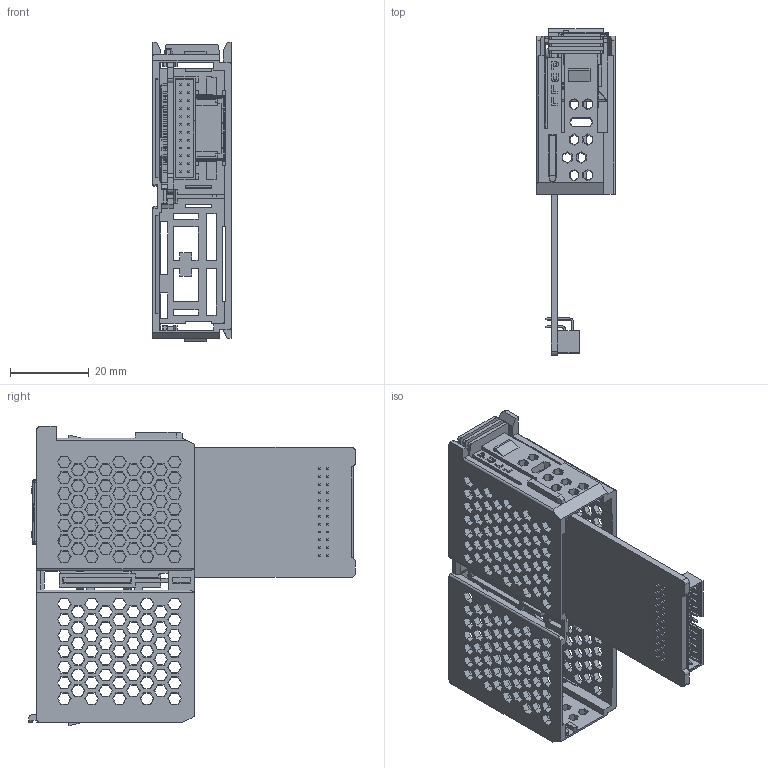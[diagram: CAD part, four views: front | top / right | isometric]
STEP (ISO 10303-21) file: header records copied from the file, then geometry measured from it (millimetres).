
FILE_DESCRIPTION((''),'2;1');
FILE_NAME('MPLC-MA-RJ45-COVER_ASM','2024-06-23T17:02:50',('Jacky Chang'),(''),'CREO PARAMETRIC BY PTC INC, 2021284','CREO PARAMETRIC BY PTC INC, 2021284','');
FILE_SCHEMA(('CONFIG_CONTROL_DESIGN','SHAPE_APPEARANCE_LAYERS_GROUPS'));
Products named in the file (7): MPLC-MA-IO-COVER; MPLC-MA-RJ45-PCB; BH2RA124GFGA000V; 8188E-XX1X3D000; MPLC-MA-RJ45-PCBA_ASM; STICKER-RJ45; MPLC-MA-RJ45-COVER_ASM
Assembly tree (6 placements, depth 3):
  MPLC-MA-RJ45-COVER_ASM
    MPLC-MA-IO-COVER
    MPLC-MA-RJ45-PCBA_ASM
      MPLC-MA-RJ45-PCB
      BH2RA124GFGA000V
      8188E-XX1X3D000
    STICKER-RJ45
Bounding box: 19.9 x 82.8 x 75.8 mm (x, y, z)
Volume: 16027.9 mm3; surface area: 30892.6 mm2
Topology: 5 solids, 11 shells, 4354 faces, 12357 edges, 7990 vertices
Faces by surface type: plane 3940, cylinder 335, extrusion 49, sphere 18, torus 8, cone 4
Entity records: 161715 total; most frequent: CARTESIAN_POINT 25379, ORIENTED_EDGE 24698, DIRECTION 21647, EDGE_CURVE 12349, VECTOR 11481, LINE 11432, VERTEX_POINT 7990, PRESENTATION_STYLE_ASSIGNMENT 7144
